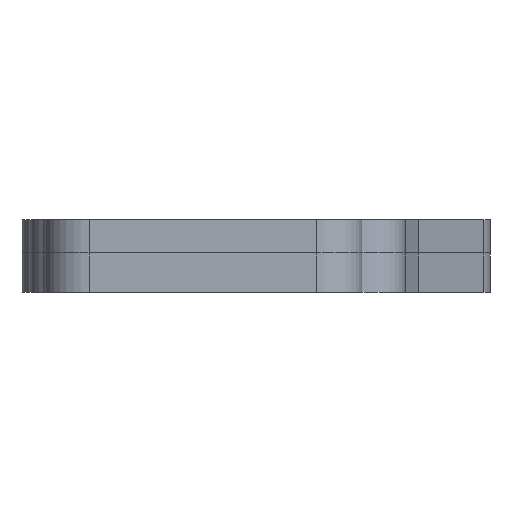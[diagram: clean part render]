
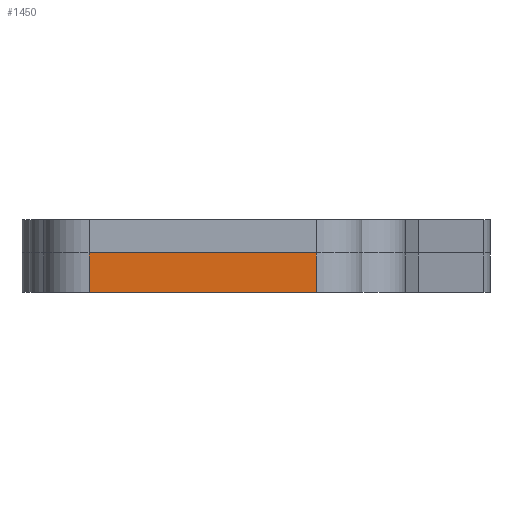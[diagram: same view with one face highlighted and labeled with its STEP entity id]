
A CAD part, left-side view. The second image highlights one B-rep face of the part: STEP entity #1450.
In plain terms, the highlighted planar face has unit normal (-1, 0, 0).
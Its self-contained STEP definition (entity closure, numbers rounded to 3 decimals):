
#73 = PLANE('',#74);
#74 = AXIS2_PLACEMENT_3D('',#75,#76,#77);
#75 = CARTESIAN_POINT('',(221.594,-111.818,13.));
#76 = DIRECTION('',(0.,0.,1.));
#77 = DIRECTION('',(1.,0.,0.));
#128 = PLANE('',#129);
#129 = AXIS2_PLACEMENT_3D('',#130,#131,#132);
#130 = CARTESIAN_POINT('',(221.594,-111.818,0.));
#131 = DIRECTION('',(0.,0.,1.));
#132 = DIRECTION('',(1.,0.,0.));
#339 = VERTEX_POINT('',#340);
#340 = CARTESIAN_POINT('',(123.125,-65.,0.));
#355 = CYLINDRICAL_SURFACE('',#356,15.);
#356 = AXIS2_PLACEMENT_3D('',#357,#358,#359);
#357 = CARTESIAN_POINT('',(138.125,-65.,0.));
#358 = DIRECTION('',(-0.,-0.,-1.));
#359 = DIRECTION('',(0.,1.,0.));
#367 = EDGE_CURVE('',#339,#368,#370,.T.);
#368 = VERTEX_POINT('',#369);
#369 = CARTESIAN_POINT('',(123.125,-140.,0.));
#370 = SURFACE_CURVE('',#371,(#375,#382),.PCURVE_S1.);
#371 = LINE('',#372,#373);
#372 = CARTESIAN_POINT('',(123.125,-65.,0.));
#373 = VECTOR('',#374,1.);
#374 = DIRECTION('',(0.,-1.,0.));
#375 = PCURVE('',#128,#376);
#376 = DEFINITIONAL_REPRESENTATION('',(#377),#381);
#377 = LINE('',#378,#379);
#378 = CARTESIAN_POINT('',(-98.469,46.818));
#379 = VECTOR('',#380,1.);
#380 = DIRECTION('',(0.,-1.));
#381 = ( GEOMETRIC_REPRESENTATION_CONTEXT(2) 
PARAMETRIC_REPRESENTATION_CONTEXT() REPRESENTATION_CONTEXT('2D SPACE',''
  ) );
#382 = PCURVE('',#383,#388);
#383 = PLANE('',#384);
#384 = AXIS2_PLACEMENT_3D('',#385,#386,#387);
#385 = CARTESIAN_POINT('',(123.125,-65.,0.));
#386 = DIRECTION('',(1.,0.,0.));
#387 = DIRECTION('',(0.,-1.,0.));
#388 = DEFINITIONAL_REPRESENTATION('',(#389),#393);
#389 = LINE('',#390,#391);
#390 = CARTESIAN_POINT('',(0.,0.));
#391 = VECTOR('',#392,1.);
#392 = DIRECTION('',(1.,0.));
#393 = ( GEOMETRIC_REPRESENTATION_CONTEXT(2) 
PARAMETRIC_REPRESENTATION_CONTEXT() REPRESENTATION_CONTEXT('2D SPACE',''
  ) );
#412 = CYLINDRICAL_SURFACE('',#413,15.);
#413 = AXIS2_PLACEMENT_3D('',#414,#415,#416);
#414 = CARTESIAN_POINT('',(138.125,-140.,0.));
#415 = DIRECTION('',(-0.,-0.,-1.));
#416 = DIRECTION('',(-1.,0.,0.));
#1406 = EDGE_CURVE('',#368,#1407,#1409,.T.);
#1407 = VERTEX_POINT('',#1408);
#1408 = CARTESIAN_POINT('',(123.125,-140.,13.));
#1409 = SURFACE_CURVE('',#1410,(#1414,#1421),.PCURVE_S1.);
#1410 = LINE('',#1411,#1412);
#1411 = CARTESIAN_POINT('',(123.125,-140.,0.));
#1412 = VECTOR('',#1413,1.);
#1413 = DIRECTION('',(0.,0.,1.));
#1414 = PCURVE('',#412,#1415);
#1415 = DEFINITIONAL_REPRESENTATION('',(#1416),#1420);
#1416 = LINE('',#1417,#1418);
#1417 = CARTESIAN_POINT('',(-0.,0.));
#1418 = VECTOR('',#1419,1.);
#1419 = DIRECTION('',(-0.,-1.));
#1420 = ( GEOMETRIC_REPRESENTATION_CONTEXT(2) 
PARAMETRIC_REPRESENTATION_CONTEXT() REPRESENTATION_CONTEXT('2D SPACE',''
  ) );
#1421 = PCURVE('',#383,#1422);
#1422 = DEFINITIONAL_REPRESENTATION('',(#1423),#1427);
#1423 = LINE('',#1424,#1425);
#1424 = CARTESIAN_POINT('',(75.,0.));
#1425 = VECTOR('',#1426,1.);
#1426 = DIRECTION('',(0.,-1.));
#1427 = ( GEOMETRIC_REPRESENTATION_CONTEXT(2) 
PARAMETRIC_REPRESENTATION_CONTEXT() REPRESENTATION_CONTEXT('2D SPACE',''
  ) );
#1450 = ADVANCED_FACE('',(#1451),#383,.F.);
#1451 = FACE_BOUND('',#1452,.F.);
#1452 = EDGE_LOOP('',(#1453,#1454,#1455,#1478));
#1453 = ORIENTED_EDGE('',*,*,#1406,.F.);
#1454 = ORIENTED_EDGE('',*,*,#367,.F.);
#1455 = ORIENTED_EDGE('',*,*,#1456,.T.);
#1456 = EDGE_CURVE('',#339,#1457,#1459,.T.);
#1457 = VERTEX_POINT('',#1458);
#1458 = CARTESIAN_POINT('',(123.125,-65.,13.));
#1459 = SURFACE_CURVE('',#1460,(#1464,#1471),.PCURVE_S1.);
#1460 = LINE('',#1461,#1462);
#1461 = CARTESIAN_POINT('',(123.125,-65.,0.));
#1462 = VECTOR('',#1463,1.);
#1463 = DIRECTION('',(0.,0.,1.));
#1464 = PCURVE('',#383,#1465);
#1465 = DEFINITIONAL_REPRESENTATION('',(#1466),#1470);
#1466 = LINE('',#1467,#1468);
#1467 = CARTESIAN_POINT('',(0.,0.));
#1468 = VECTOR('',#1469,1.);
#1469 = DIRECTION('',(0.,-1.));
#1470 = ( GEOMETRIC_REPRESENTATION_CONTEXT(2) 
PARAMETRIC_REPRESENTATION_CONTEXT() REPRESENTATION_CONTEXT('2D SPACE',''
  ) );
#1471 = PCURVE('',#355,#1472);
#1472 = DEFINITIONAL_REPRESENTATION('',(#1473),#1477);
#1473 = LINE('',#1474,#1475);
#1474 = CARTESIAN_POINT('',(-1.571,0.));
#1475 = VECTOR('',#1476,1.);
#1476 = DIRECTION('',(-0.,-1.));
#1477 = ( GEOMETRIC_REPRESENTATION_CONTEXT(2) 
PARAMETRIC_REPRESENTATION_CONTEXT() REPRESENTATION_CONTEXT('2D SPACE',''
  ) );
#1478 = ORIENTED_EDGE('',*,*,#1479,.T.);
#1479 = EDGE_CURVE('',#1457,#1407,#1480,.T.);
#1480 = SURFACE_CURVE('',#1481,(#1485,#1492),.PCURVE_S1.);
#1481 = LINE('',#1482,#1483);
#1482 = CARTESIAN_POINT('',(123.125,-65.,13.));
#1483 = VECTOR('',#1484,1.);
#1484 = DIRECTION('',(0.,-1.,0.));
#1485 = PCURVE('',#383,#1486);
#1486 = DEFINITIONAL_REPRESENTATION('',(#1487),#1491);
#1487 = LINE('',#1488,#1489);
#1488 = CARTESIAN_POINT('',(0.,-13.));
#1489 = VECTOR('',#1490,1.);
#1490 = DIRECTION('',(1.,0.));
#1491 = ( GEOMETRIC_REPRESENTATION_CONTEXT(2) 
PARAMETRIC_REPRESENTATION_CONTEXT() REPRESENTATION_CONTEXT('2D SPACE',''
  ) );
#1492 = PCURVE('',#73,#1493);
#1493 = DEFINITIONAL_REPRESENTATION('',(#1494),#1498);
#1494 = LINE('',#1495,#1496);
#1495 = CARTESIAN_POINT('',(-98.469,46.818));
#1496 = VECTOR('',#1497,1.);
#1497 = DIRECTION('',(0.,-1.));
#1498 = ( GEOMETRIC_REPRESENTATION_CONTEXT(2) 
PARAMETRIC_REPRESENTATION_CONTEXT() REPRESENTATION_CONTEXT('2D SPACE',''
  ) );
